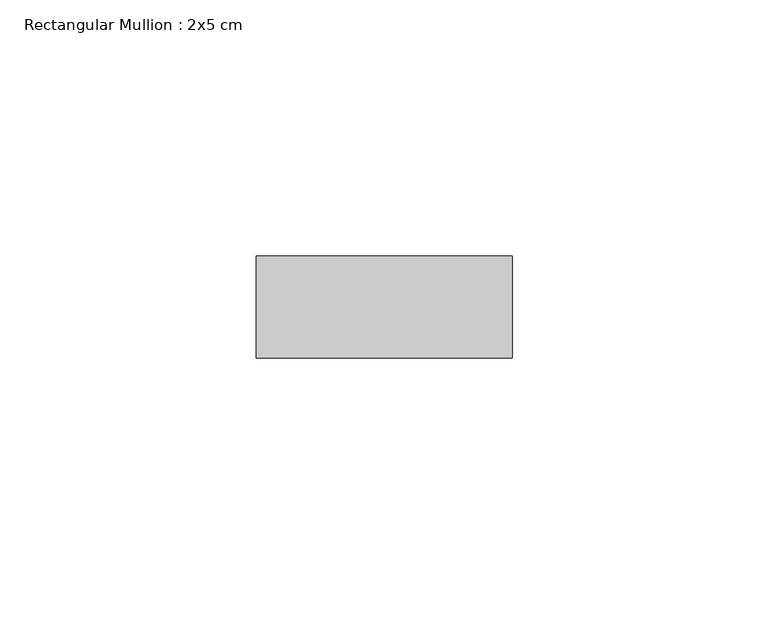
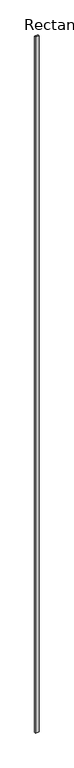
"""IFC4 building model written with IfcOpenShell, lengths in millimetres: member geometry, Rectangular Mullion : 2x5 cm."""

from ifc_helpers import new_model, si_unit, frame, origin, place, context, project, spatial, polyline, outline, extrude, source, transform, mapped, element, save


def rectangular_mullion_2x5_cm_487bcc3e(model_context):
    return source(origin(), model_context, "Body", "SweptSolid", [
        extrude(outline(polyline([(50.0, 20.0), (50.0, 0.0), (0.0, 0.0), (0.0, 20.0), (50.0, 20.0)])), frame((0.0, 0.0, -10811.8717389), z_axis=(0.0, 0.0, 1.0), x_axis=(1.0, 0.0, 0.0)), (0.0, 0.0, 1.0), 10811.8717389),
    ])


if __name__ == "__main__":
    model = new_model("IFC4")
    model_context = context("Model", 3, world=origin())
    ifc_project = project(units=[si_unit("LENGTHUNIT", "METRE", prefix="MILLI")], contexts=[model_context])
    site = spatial("IfcSite", under=ifc_project)
    building = spatial("IfcBuilding", under=site)
    placement = place(None, origin())
    rectangular_mullion_2x5_cm_shape = rectangular_mullion_2x5_cm_487bcc3e(model_context)
    element("IfcMember", 1, ObjectType="Rectangular Mullion : 2x5 cm", at=placement, inside=building, context=model_context, shape_type="MappedRepresentation", body=[
        mapped(rectangular_mullion_2x5_cm_shape, transform((0.0, 0.0, 0.0), x_axis=(1.0, 0.0, 0.0), y_axis=(0.0, 1.0, 0.0), z_axis=(0.0, 0.0, 1.0))),
    ])
    save(model, "model.ifc")
